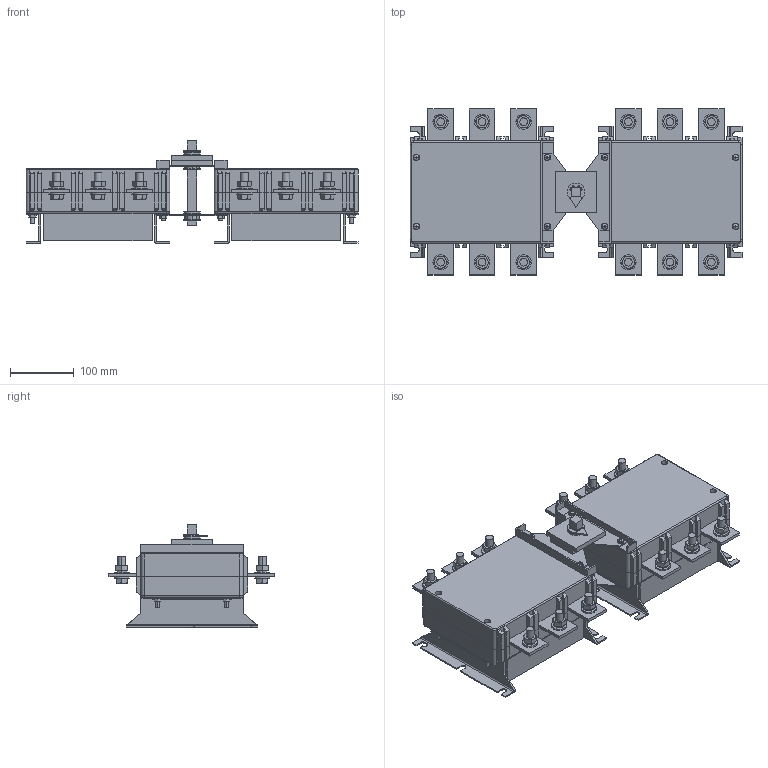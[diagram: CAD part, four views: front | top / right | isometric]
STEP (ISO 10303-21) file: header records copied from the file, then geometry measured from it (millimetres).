
FILE_DESCRIPTION((''),'2;1');
FILE_NAME('630-3S_ASM','2021-05-07T',('wangpeng'),(''),'PRO/ENGINEER BY PARAMETRIC TECHNOLOGY CORPORATION, 2009460','PRO/ENGINEER BY PARAMETRIC TECHNOLOGY CORPORATION, 2009460','');
FILE_SCHEMA(('AUTOMOTIVE_DESIGN { 1 0 10303 214 1 1 1 1 }'));
Length unit declared in the file: millimetre
Products named in the file (21): SB-630-3S; ZB-630-3S; CT-630-3S; XB-630-3S; YB-630-3S; ZCB-630-3S; DB-630-3S; PDQ12; LSM12; TDQ12; LMM12; PDQ6; 00LSM6; 0LSM6; LMM6; ZSJNH40; FKSNH40; ZSJTNH40; ZZ-630-3S; DQM8; 630-3S_ASM
Assembly tree (128 placements, depth 2):
  630-3S_ASM
    SB-630-3S  x2
    ZB-630-3S  x2
    CT-630-3S  x6
    XB-630-3S  x2
    YB-630-3S  x2
    ZCB-630-3S  x2
    DB-630-3S  x4
    PDQ12  x24
    LSM12  x12
    TDQ12  x12
    LMM12  x12
    PDQ6  x16
    00LSM6  x4
    0LSM6  x12
    LMM6  x8
    ZSJNH40
    FKSNH40  x3
    ZSJTNH40
    ZZ-630-3S
    DQM8  x2
Bounding box: 520 x 260 x 160.5 mm (x, y, z)
Volume: 7942932.3 mm3; surface area: 1063097.7 mm2
Topology: 128 solids, 128 shells, 2476 faces, 6101 edges, 3940 vertices
Faces by surface type: plane 1425, cylinder 659, cone 344, sphere 32, torus 16
Entity records: 22255 total; most frequent: CARTESIAN_POINT 4087, DIRECTION 3483, ORIENTED_EDGE 3264, EDGE_CURVE 1632, VECTOR 1173, LINE 1173, AXIS2_PLACEMENT_3D 1155, VERTEX_POINT 1071
